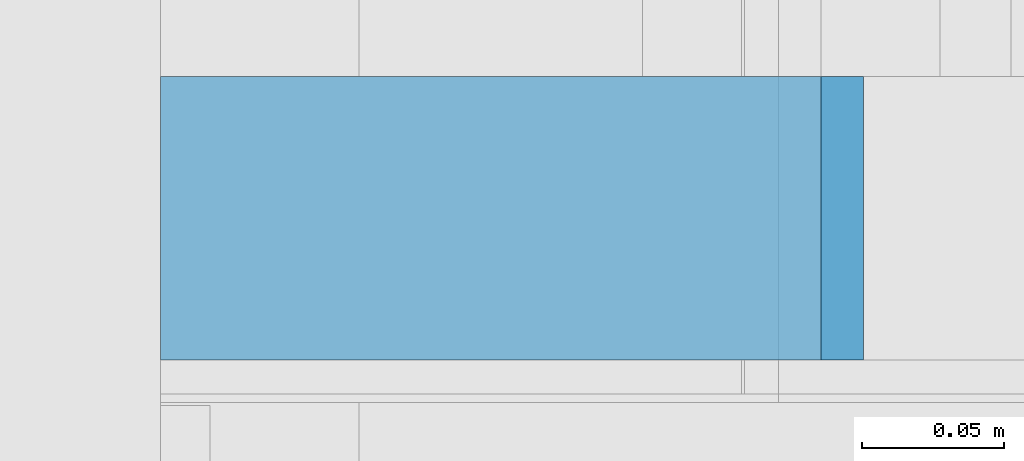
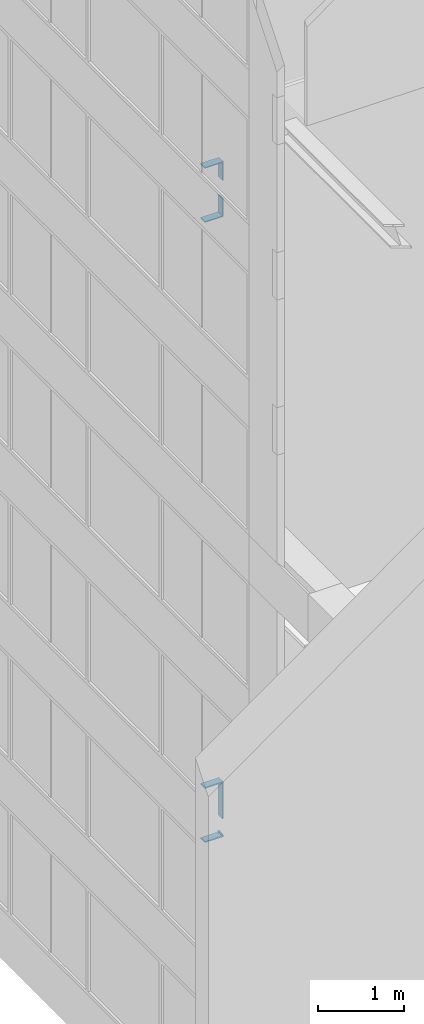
# One storey, part 172 of 583: 8 building element parts, 6 elements without a shape of their own.
"""IFC2X3 building model written with IfcOpenShell, lengths in metres."""

from ifc_helpers import new_model, entity, si_unit, converted_unit, derived_unit, money_unit, direction, frame, origin_with_axes, place, context, subcontext, project, spatial, polyline, outline, extrude, material, type_object, element, aggregate, save


model = new_model("IFC2X3")

# Units and contexts
model_context = context("Model", 3, precision=1e-05, world=origin_with_axes(), true_north=direction((0.0, 1.0)))
body_context = subcontext(model_context, "Body", "Model", "MODEL_VIEW", scale=1.0)
ifc_project = project(units=[si_unit("LENGTHUNIT", "METRE"), si_unit("AREAUNIT", "SQUARE_METRE"), si_unit("VOLUMEUNIT", "CUBIC_METRE"), si_unit("ABSORBEDDOSEUNIT", "GRAY"), si_unit("AMOUNTOFSUBSTANCEUNIT", "MOLE"), si_unit("DOSEEQUIVALENTUNIT", "SIEVERT"), si_unit("ELECTRICCAPACITANCEUNIT", "FARAD"), si_unit("ELECTRICCHARGEUNIT", "COULOMB"), si_unit("ELECTRICCONDUCTANCEUNIT", "SIEMENS"), si_unit("ELECTRICCURRENTUNIT", "AMPERE"), si_unit("ELECTRICRESISTANCEUNIT", "OHM"), si_unit("ELECTRICVOLTAGEUNIT", "VOLT"), si_unit("ENERGYUNIT", "JOULE"), si_unit("FORCEUNIT", "NEWTON"), si_unit("FREQUENCYUNIT", "HERTZ"), si_unit("ILLUMINANCEUNIT", "LUX"), si_unit("INDUCTANCEUNIT", "HENRY"), si_unit("LUMINOUSFLUXUNIT", "LUMEN"), si_unit("LUMINOUSINTENSITYUNIT", "CANDELA"), si_unit("MAGNETICFLUXDENSITYUNIT", "TESLA"), si_unit("MAGNETICFLUXUNIT", "WEBER"), si_unit("MASSUNIT", "GRAM"), converted_unit("PLANEANGLEUNIT", "degree", entity("IfcReal", 0.0174532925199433), si_unit("PLANEANGLEUNIT", "RADIAN"), dimensions=[0, 0, 0, 0, 0, 0, 0]), si_unit("POWERUNIT", "WATT"), si_unit("PRESSUREUNIT", "PASCAL"), si_unit("RADIOACTIVITYUNIT", "BECQUEREL"), si_unit("SOLIDANGLEUNIT", "STERADIAN"), si_unit("THERMODYNAMICTEMPERATUREUNIT", "KELVIN"), si_unit("TIMEUNIT", "SECOND"), derived_unit("ACCELERATIONUNIT", [(si_unit("LENGTHUNIT", "METRE"), 1), (si_unit("TIMEUNIT", "SECOND"), -2)]), derived_unit("ANGULARVELOCITYUNIT", [(converted_unit("PLANEANGLEUNIT", "degree", entity("IfcReal", 0.0174532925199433), si_unit("PLANEANGLEUNIT", "RADIAN"), dimensions=[0, 0, 0, 0, 0, 0, 0]), 1), (si_unit("TIMEUNIT", "SECOND"), -1)]), derived_unit("CURVATUREUNIT", [(converted_unit("PLANEANGLEUNIT", "degree", entity("IfcReal", 0.0174532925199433), si_unit("PLANEANGLEUNIT", "RADIAN"), dimensions=[0, 0, 0, 0, 0, 0, 0]), 1), (si_unit("LENGTHUNIT", "METRE"), -1)]), derived_unit("DYNAMICVISCOSITYUNIT", [(si_unit("PRESSUREUNIT", "PASCAL"), 1), (si_unit("TIMEUNIT", "SECOND"), 1)]), derived_unit("HEATFLUXDENSITYUNIT", [(si_unit("POWERUNIT", "WATT"), 1), (si_unit("LENGTHUNIT", "METRE"), -2)]), derived_unit("HEATINGVALUEUNIT", [(si_unit("ENERGYUNIT", "JOULE"), 1), (si_unit("MASSUNIT", "GRAM"), -1)]), derived_unit("INTEGERCOUNTRATEUNIT", [(si_unit("TIMEUNIT", "SECOND"), -1)]), derived_unit("IONCONCENTRATIONUNIT", [(si_unit("MASSUNIT", "GRAM"), 1), (si_unit("VOLUMEUNIT", "CUBIC_METRE"), -1)]), derived_unit("ISOTHERMALMOISTURECAPACITYUNIT", [(si_unit("VOLUMEUNIT", "CUBIC_METRE"), 1), (si_unit("MASSUNIT", "GRAM"), -1)]), derived_unit("KINEMATICVISCOSITYUNIT", [(si_unit("AREAUNIT", "SQUARE_METRE"), 1), (si_unit("TIMEUNIT", "SECOND"), -1)]), derived_unit("LINEARFORCEUNIT", [(si_unit("FORCEUNIT", "NEWTON"), 1), (si_unit("LENGTHUNIT", "METRE"), -1)]), derived_unit("LINEARMOMENTUNIT", [(si_unit("FORCEUNIT", "NEWTON"), 1), (si_unit("LENGTHUNIT", "METRE"), -1)]), derived_unit("LINEARSTIFFNESSUNIT", [(si_unit("FORCEUNIT", "NEWTON"), 1), (si_unit("LENGTHUNIT", "METRE"), -1)]), derived_unit("LINEARVELOCITYUNIT", [(si_unit("LENGTHUNIT", "METRE"), 1), (si_unit("TIMEUNIT", "SECOND"), -1)]), derived_unit("LUMINOUSINTENSITYDISTRIBUTIONUNIT", [(si_unit("LUMINOUSINTENSITYUNIT", "CANDELA"), 1), (si_unit("LUMINOUSFLUXUNIT", "LUMEN"), -1)]), derived_unit("MASSDENSITYUNIT", [(si_unit("MASSUNIT", "GRAM"), 1), (si_unit("VOLUMEUNIT", "CUBIC_METRE"), -1)]), derived_unit("MASSFLOWRATEUNIT", [(si_unit("MASSUNIT", "GRAM"), 1), (si_unit("TIMEUNIT", "SECOND"), -1)]), derived_unit("MASSPERLENGTHUNIT", [(si_unit("MASSUNIT", "GRAM"), 1), (si_unit("LENGTHUNIT", "METRE"), -1)]), derived_unit("MODULUSOFELASTICITYUNIT", [(si_unit("FORCEUNIT", "NEWTON"), 1), (si_unit("AREAUNIT", "SQUARE_METRE"), -1)]), derived_unit("MODULUSOFLINEARSUBGRADEREACTIONUNIT", [(si_unit("FORCEUNIT", "NEWTON"), 1), (si_unit("LENGTHUNIT", "METRE"), -2)]), derived_unit("MODULUSOFROTATIONALSUBGRADEREACTIONUNIT", [(si_unit("FORCEUNIT", "NEWTON"), 1), (si_unit("LENGTHUNIT", "METRE"), 1)]), derived_unit("MODULUSOFSUBGRADEREACTIONUNIT", [(si_unit("FORCEUNIT", "NEWTON"), 1), (si_unit("VOLUMEUNIT", "CUBIC_METRE"), -1)]), derived_unit("MOISTUREDIFFUSIVITYUNIT", [(si_unit("VOLUMEUNIT", "CUBIC_METRE"), 1), (si_unit("TIMEUNIT", "SECOND"), -1)]), derived_unit("MOLECULARWEIGHTUNIT", [(si_unit("MASSUNIT", "GRAM"), 1), (si_unit("AMOUNTOFSUBSTANCEUNIT", "MOLE"), -1)]), derived_unit("PLANARFORCEUNIT", [(si_unit("FORCEUNIT", "NEWTON"), 1), (si_unit("LENGTHUNIT", "METRE"), -2)]), derived_unit("ROTATIONALFREQUENCYUNIT", [(si_unit("TIMEUNIT", "SECOND"), -1)]), derived_unit("ROTATIONALMASSUNIT", [(si_unit("MASSUNIT", "GRAM"), 1), (si_unit("LENGTHUNIT", "METRE"), 2)]), derived_unit("ROTATIONALSTIFFNESSUNIT", [(si_unit("FORCEUNIT", "NEWTON"), 1), (si_unit("LENGTHUNIT", "METRE"), 1), (converted_unit("PLANEANGLEUNIT", "degree", entity("IfcReal", 0.0174532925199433), si_unit("PLANEANGLEUNIT", "RADIAN"), dimensions=[0, 0, 0, 0, 0, 0, 0]), -1)]), derived_unit("SECTIONAREAINTEGRALUNIT", [(si_unit("LENGTHUNIT", "METRE"), 5)]), derived_unit("SECTIONMODULUSUNIT", [(si_unit("LENGTHUNIT", "METRE"), 3)]), derived_unit("SHEARMODULUSUNIT", [(si_unit("FORCEUNIT", "NEWTON"), 1), (si_unit("AREAUNIT", "SQUARE_METRE"), -1)]), derived_unit("SOUNDPOWERUNIT", [(si_unit("ENERGYUNIT", "JOULE"), 1), (si_unit("TIMEUNIT", "SECOND"), -1)]), derived_unit("SPECIFICHEATCAPACITYUNIT", [(si_unit("FORCEUNIT", "NEWTON"), 1), (si_unit("MASSUNIT", "GRAM"), -1), (si_unit("THERMODYNAMICTEMPERATUREUNIT", "KELVIN"), -1)]), derived_unit("TEMPERATUREGRADIENTUNIT", [(si_unit("THERMODYNAMICTEMPERATUREUNIT", "KELVIN"), 1), (si_unit("LENGTHUNIT", "METRE"), -1)]), derived_unit("THERMALADMITTANCEUNIT", [(si_unit("POWERUNIT", "WATT"), 1), (si_unit("AREAUNIT", "SQUARE_METRE"), -1), (si_unit("THERMODYNAMICTEMPERATUREUNIT", "KELVIN"), -1)]), derived_unit("THERMALCONDUCTANCEUNIT", [(si_unit("POWERUNIT", "WATT"), 1), (si_unit("LENGTHUNIT", "METRE"), -1), (si_unit("THERMODYNAMICTEMPERATUREUNIT", "KELVIN"), -1)]), derived_unit("THERMALEXPANSIONCOEFFICIENTUNIT", [(si_unit("THERMODYNAMICTEMPERATUREUNIT", "KELVIN"), -1)]), derived_unit("THERMALRESISTANCEUNIT", [(si_unit("AREAUNIT", "SQUARE_METRE"), 1), (si_unit("POWERUNIT", "WATT"), -1)]), derived_unit("THERMALTRANSMITTANCEUNIT", [(si_unit("POWERUNIT", "WATT"), 1), (si_unit("AREAUNIT", "SQUARE_METRE"), -1), (si_unit("THERMODYNAMICTEMPERATUREUNIT", "KELVIN"), -1)]), derived_unit("TORQUEUNIT", [(si_unit("FORCEUNIT", "NEWTON"), 1), (si_unit("LENGTHUNIT", "METRE"), 1)]), derived_unit("VAPORPERMEABILITYUNIT", [(si_unit("MASSUNIT", "GRAM"), 1), (si_unit("TIMEUNIT", "SECOND"), -1)]), derived_unit("VOLUMETRICFLOWRATEUNIT", [(si_unit("VOLUMEUNIT", "CUBIC_METRE"), 1), (si_unit("TIMEUNIT", "SECOND"), -1)]), derived_unit("WARPINGCONSTANTUNIT", [(si_unit("LENGTHUNIT", "METRE"), 6)]), derived_unit("WARPINGMOMENTUNIT", [(si_unit("FORCEUNIT", "NEWTON"), 1), (si_unit("LENGTHUNIT", "METRE"), 2)]), money_unit("GBP")], contexts=[model_context])

# Site, building, storey
site_placement = place(None, origin_with_axes())
site = spatial("IfcSite", under=ifc_project, at=site_placement, Name="Site", CompositionType="ELEMENT")
building_placement = place(site_placement, origin_with_axes())
building = spatial("IfcBuilding", under=site, at=building_placement, Name="Building01", CompositionType="ELEMENT")
storey_placement = place(building_placement, frame((0.0, 0.0, 20.78), z_axis=(0.0, 0.0, 1.0), x_axis=(1.0, 0.0, 0.0)))
storey = spatial("IfcBuildingStorey", under=building, at=storey_placement, Name="RL", CompositionType="ELEMENT", Elevation=20.78)

# Wall, building element part
wall_type = type_object("IfcWallType", Name="SHE_A-Walls_Type06f_ExternalWallInsulation_48+15mm", PredefinedType="NOTDEFINED")
wall_1_placement = place(storey_placement, frame((0.27, 5.15, -15.723), z_axis=(0.0, 1.0, 0.0), x_axis=(-1.0, 0.0, 0.0)))
wall_1 = element("IfcWall", 1, at=wall_1_placement, inside=storey, type_object=wall_type, Name="6F", ObjectType="SHE_A-Walls_Type06f_ExternalWallInsulation_48+15mm")
ifc_material = material(Name="A_BSUK_Walls_Timber")
building_element_part_1_placement = place(wall_1_placement, origin_with_axes())
building_element_part_1 = element("IfcBuildingElementPart", 2, at=building_element_part_1_placement, material=ifc_material, Name="2", context=body_context, shape_type="SweptSolid", body=[
    extrude(outline(polyline([(-0.078, 0.078), (-0.063, 0.063), (0.17, 0.063), (0.17, 0.078), (-0.078, 0.078)])), frame((0.0, 0.0, 0.015), z_axis=(0.0, 0.0, 1.0), x_axis=(1.0, 0.0, 0.0)), (0.0, 0.0, 1.0), 0.1),
])
aggregate(wall_1, [building_element_part_1])

wall_2_placement = place(storey_placement, frame((0.1, 5.15, -16.347), z_axis=(0.0, 1.0, 0.0), x_axis=(1.0, 0.0, 0.0)))
wall_2 = element("IfcWall", 3, at=wall_2_placement, inside=storey, type_object=wall_type, Name="6F", ObjectType="SHE_A-Walls_Type06f_ExternalWallInsulation_48+15mm")
building_element_part_2_placement = place(wall_2_placement, origin_with_axes())
building_element_part_2 = element("IfcBuildingElementPart", 4, at=building_element_part_2_placement, material=ifc_material, Name="2", context=body_context, shape_type="SweptSolid", body=[
    extrude(outline(polyline([(0.248, 0.078), (0.0, 0.078), (0.0, 0.063), (0.233, 0.063), (0.248, 0.078)])), frame((0.0, 0.0, 0.015), z_axis=(0.0, 0.0, 1.0), x_axis=(1.0, 0.0, 0.0)), (0.0, 0.0, 1.0), 0.1),
])
aggregate(wall_2, [building_element_part_2])

# Wall, building element parts
wall_3_placement = place(storey_placement, frame((0.27, 5.15, -16.383), z_axis=(0.0, 1.0, 0.0), x_axis=(0.0, 0.0, 1.0)))
wall_3 = element("IfcWall", 5, at=wall_3_placement, inside=storey, type_object=wall_type, Name="6F", ObjectType="SHE_A-Walls_Type06f_ExternalWallInsulation_48+15mm")
placement_1 = place(wall_3_placement, origin_with_axes())
building_element_part_3 = element("IfcBuildingElementPart", 6, at=placement_1, material=ifc_material, Name="2", context=body_context, shape_type="SweptSolid", body=[
    extrude(outline(polyline([(-0.042, 0.078), (-0.027, 0.063), (-0.012, 0.063), (-0.012, 0.078), (-0.042, 0.078)])), frame((0.0, 0.0, 0.015), z_axis=(0.0, 0.0, 1.0), x_axis=(1.0, 0.0, 0.0)), (0.0, 0.0, 1.0), 0.1),
])
building_element_part_4 = element("IfcBuildingElementPart", 7, at=placement_1, material=ifc_material, Name="4", context=body_context, shape_type="SweptSolid", body=[
    extrude(outline(polyline([(0.738, 0.078), (0.213, 0.078), (0.213, 0.063), (0.723, 0.063), (0.738, 0.078)])), frame((0.0, 0.0, 0.015), z_axis=(0.0, 0.0, 1.0), x_axis=(1.0, 0.0, 0.0)), (0.0, 0.0, 1.0), 0.1),
])
aggregate(wall_3, [building_element_part_3, building_element_part_4])

wall_4_placement = place(storey_placement, frame((0.27, 5.15, -7.623), z_axis=(0.0, 1.0, 0.0), x_axis=(0.0, 0.0, 1.0)))
wall_4 = element("IfcWall", 8, at=wall_4_placement, inside=storey, type_object=wall_type, Name="6F", ObjectType="SHE_A-Walls_Type06f_ExternalWallInsulation_48+15mm")
placement_2 = place(wall_4_placement, origin_with_axes())
building_element_part_5 = element("IfcBuildingElementPart", 9, at=placement_2, material=ifc_material, Name="3", context=body_context, shape_type="SweptSolid", body=[
    extrude(outline(polyline([(0.2155, 0.078), (-0.042, 0.078), (-0.027, 0.063), (0.2155, 0.063), (0.2155, 0.078)])), frame((0.0, 0.0, 0.015), z_axis=(0.0, 0.0, 1.0), x_axis=(1.0, 0.0, 0.0)), (0.0, 0.0, 1.0), 0.1),
])
building_element_part_6 = element("IfcBuildingElementPart", 10, at=placement_2, material=ifc_material, Name="5", context=body_context, shape_type="SweptSolid", body=[
    extrude(outline(polyline([(0.738, 0.078), (0.4705, 0.078), (0.4705, 0.063), (0.723, 0.063), (0.738, 0.078)])), frame((0.0, 0.0, 0.015), z_axis=(0.0, 0.0, 1.0), x_axis=(1.0, 0.0, 0.0)), (0.0, 0.0, 1.0), 0.1),
])
aggregate(wall_4, [building_element_part_5, building_element_part_6])

# Wall, building element part
wall_5_placement = place(storey_placement, frame((0.27, 5.15, -6.963), z_axis=(0.0, 1.0, 0.0), x_axis=(-1.0, 0.0, 0.0)))
wall_5 = element("IfcWall", 11, at=wall_5_placement, inside=storey, type_object=wall_type, Name="6F", ObjectType="SHE_A-Walls_Type06f_ExternalWallInsulation_48+15mm")
building_element_part_7_placement = place(wall_5_placement, origin_with_axes())
building_element_part_7 = element("IfcBuildingElementPart", 12, at=building_element_part_7_placement, material=ifc_material, Name="2", context=body_context, shape_type="SweptSolid", body=[
    extrude(outline(polyline([(-0.078, 0.078), (-0.063, 0.063), (0.17, 0.063), (0.17, 0.078), (-0.078, 0.078)])), frame((0.0, 0.0, 0.015), z_axis=(0.0, 0.0, 1.0), x_axis=(1.0, 0.0, 0.0)), (0.0, 0.0, 1.0), 0.1),
])
aggregate(wall_5, [building_element_part_7])

wall_6_placement = place(storey_placement, frame((0.1, 5.15, -7.587), z_axis=(0.0, 1.0, 0.0), x_axis=(1.0, 0.0, 0.0)))
wall_6 = element("IfcWall", 13, at=wall_6_placement, inside=storey, type_object=wall_type, Name="6F", ObjectType="SHE_A-Walls_Type06f_ExternalWallInsulation_48+15mm")
building_element_part_8_placement = place(wall_6_placement, origin_with_axes())
building_element_part_8 = element("IfcBuildingElementPart", 14, at=building_element_part_8_placement, material=ifc_material, Name="2", context=body_context, shape_type="SweptSolid", body=[
    extrude(outline(polyline([(0.248, 0.078), (0.0, 0.078), (0.0, 0.063), (0.233, 0.063), (0.248, 0.078)])), frame((0.0, 0.0, 0.015), z_axis=(0.0, 0.0, 1.0), x_axis=(1.0, 0.0, 0.0)), (0.0, 0.0, 1.0), 0.1),
])
aggregate(wall_6, [building_element_part_8])

save(model, "model.ifc")
